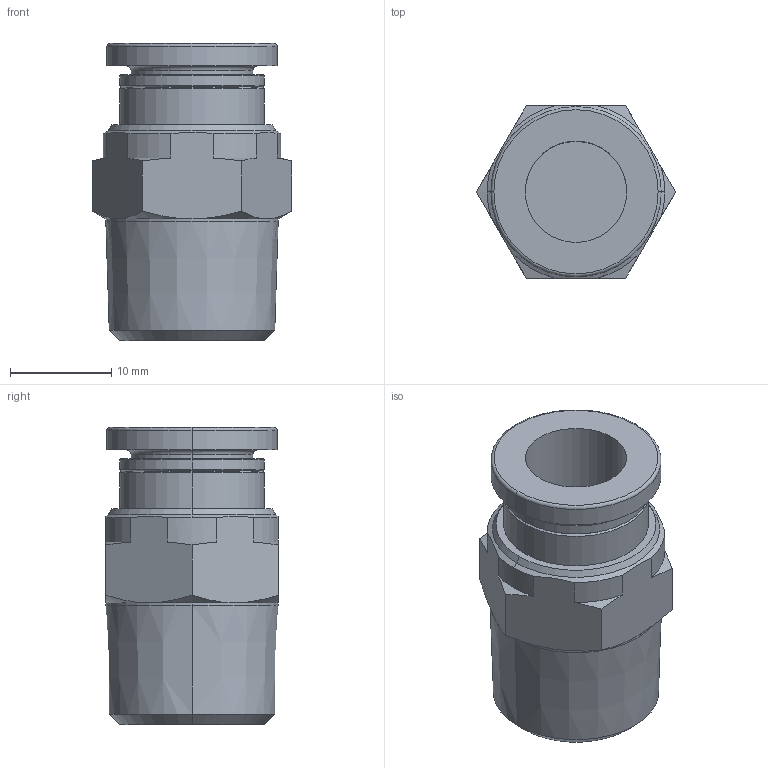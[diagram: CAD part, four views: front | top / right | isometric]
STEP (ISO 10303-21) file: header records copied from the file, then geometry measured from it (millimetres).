
FILE_DESCRIPTION(/* description */ ('AP214 STEP file'),/* implementation_level */ '2;1');
FILE_NAME(/* name */ 'PC10-03_',/* time_stamp */ '2014-08-28T20:44:07+09:00',/* author */ (''),/* organization */ (''),/* preprocessor_version */ '.stp',/* originating_system */ 'UNIGRAPHICS',/* authorisation */ '');
FILE_SCHEMA (('AUTOMOTIVE_DESIGN'));
Length unit declared in the file: millimetre
Products named in the file (1): PC10-03_
Bounding box: 19.63 x 17 x 29.3 mm (x, y, z)
Volume: 4588.8 mm3; surface area: 2800.8 mm2
Topology: 1 solids, 1 shells, 60 faces, 138 edges, 84 vertices
Faces by surface type: cone 26, cylinder 18, plane 12, torus 4
Entity records: 1667 total; most frequent: CARTESIAN_POINT 377, ORIENTED_EDGE 276, EDGE_CURVE 138, STYLED_ITEM 138, AXIS2_PLACEMENT_3D 123, VERTEX_POINT 84, DIRECTION 76, EDGE_LOOP 64
